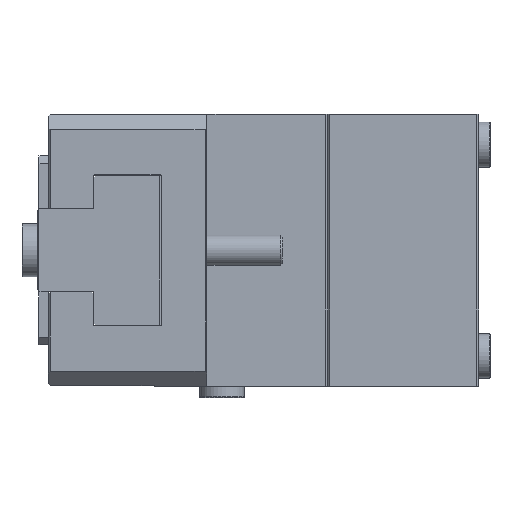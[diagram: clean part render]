
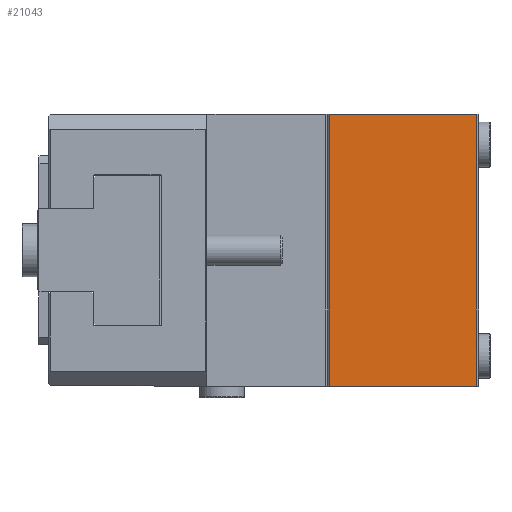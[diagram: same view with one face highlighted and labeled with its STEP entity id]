
A CAD part, left-side view. The second image highlights one B-rep face of the part: STEP entity #21043.
In plain terms, the highlighted planar face has unit normal (-1, 0, 0).
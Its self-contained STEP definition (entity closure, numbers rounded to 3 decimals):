
#111 = CARTESIAN_POINT ( 'NONE',  ( -62.5, 39.5, 36. ) ) ;
#1257 = VECTOR ( 'NONE', #22181, 1000. ) ;
#1411 = VERTEX_POINT ( 'NONE', #111 ) ;
#3625 = EDGE_CURVE ( 'NONE', #36745, #46322, #40957, .T. ) ;
#3673 = LINE ( 'NONE', #21651, #33778 ) ;
#3881 = LINE ( 'NONE', #36637, #25695 ) ;
#6312 = EDGE_CURVE ( 'NONE', #33127, #1411, #3673, .T. ) ;
#12461 = ORIENTED_EDGE ( 'NONE', *, *, #50596, .F. ) ;
#14082 = EDGE_CURVE ( 'NONE', #36745, #33127, #32768, .T. ) ;
#20240 = CARTESIAN_POINT ( 'NONE',  ( -62.5, 0.5, 36. ) ) ;
#20512 = DIRECTION ( 'NONE',  ( 0., 0., 1. ) ) ;
#21043 = ADVANCED_FACE ( 'NONE', ( #33915 ), #48540, .F. ) ;
#21651 = CARTESIAN_POINT ( 'NONE',  ( -62.5, 89.6, 36. ) ) ;
#21914 = VECTOR ( 'NONE', #20512, 1000. ) ;
#22181 = DIRECTION ( 'NONE',  ( 0., 1., 0. ) ) ;
#24165 = CARTESIAN_POINT ( 'NONE',  ( -62.5, 0.5, 36. ) ) ;
#24383 = DIRECTION ( 'NONE',  ( 0., 0., -1. ) ) ;
#25695 = VECTOR ( 'NONE', #44180, 1000. ) ;
#27889 = ORIENTED_EDGE ( 'NONE', *, *, #6312, .T. ) ;
#28605 = CARTESIAN_POINT ( 'NONE',  ( -62.5, 0.5, 36. ) ) ;
#29707 = CARTESIAN_POINT ( 'NONE',  ( -62.5, 39.5, -36. ) ) ;
#32768 = LINE ( 'NONE', #28605, #21914 ) ;
#33127 = VERTEX_POINT ( 'NONE', #24165 ) ;
#33778 = VECTOR ( 'NONE', #50300, 1000. ) ;
#33915 = FACE_OUTER_BOUND ( 'NONE', #40066, .T. ) ;
#36108 = ORIENTED_EDGE ( 'NONE', *, *, #3625, .F. ) ;
#36637 = CARTESIAN_POINT ( 'NONE',  ( -62.5, 39.5, 36. ) ) ;
#36745 = VERTEX_POINT ( 'NONE', #39615 ) ;
#39615 = CARTESIAN_POINT ( 'NONE',  ( -62.5, 0.5, -36. ) ) ;
#40066 = EDGE_LOOP ( 'NONE', ( #52349, #27889, #12461, #36108 ) ) ;
#40957 = LINE ( 'NONE', #42601, #1257 ) ;
#42601 = CARTESIAN_POINT ( 'NONE',  ( -62.5, 89.6, -36. ) ) ;
#44180 = DIRECTION ( 'NONE',  ( 0., 0., 1. ) ) ;
#45060 = AXIS2_PLACEMENT_3D ( 'NONE', #20240, #48886, #24383 ) ;
#46322 = VERTEX_POINT ( 'NONE', #29707 ) ;
#48540 = PLANE ( 'NONE',  #45060 ) ;
#48886 = DIRECTION ( 'NONE',  ( 1., 0., 0. ) ) ;
#50300 = DIRECTION ( 'NONE',  ( 0., 1., 0. ) ) ;
#50596 = EDGE_CURVE ( 'NONE', #46322, #1411, #3881, .T. ) ;
#52349 = ORIENTED_EDGE ( 'NONE', *, *, #14082, .T. ) ;
